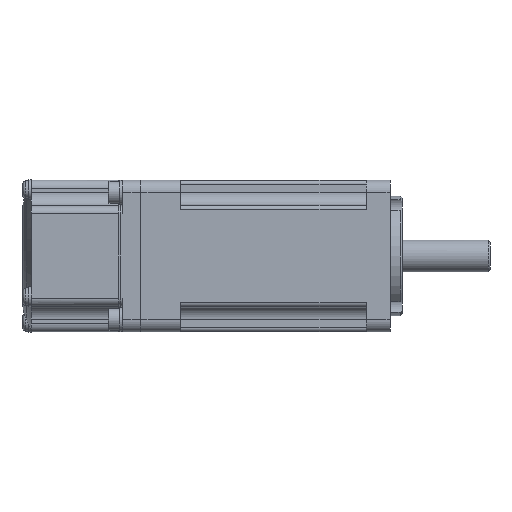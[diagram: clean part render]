
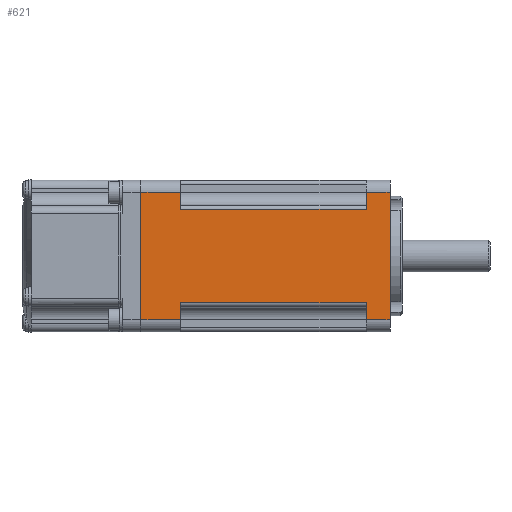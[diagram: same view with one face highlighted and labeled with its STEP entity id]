
A CAD part, front view. The second image highlights one B-rep face of the part: STEP entity #621.
In plain terms, the highlighted planar face has unit normal (0, -1, 0).
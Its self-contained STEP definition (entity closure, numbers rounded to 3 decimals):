
#621 = ADVANCED_FACE( '', ( #1719 ), #1720, .T. );
#1719 = FACE_OUTER_BOUND( '', #3411, .T. );
#1720 = PLANE( '', #3412 );
#3411 = EDGE_LOOP( '', ( #6607, #6608, #6609, #6610, #6611, #6612, #6613, #6614, #6615, #6616, #6617, #6618 ) );
#3412 = AXIS2_PLACEMENT_3D( '', #6619, #6620, #6621 );
#6607 = ORIENTED_EDGE( '', *, *, #10627, .F. );
#6608 = ORIENTED_EDGE( '', *, *, #10903, .T. );
#6609 = ORIENTED_EDGE( '', *, *, #10900, .T. );
#6610 = ORIENTED_EDGE( '', *, *, #10874, .T. );
#6611 = ORIENTED_EDGE( '', *, *, #10902, .F. );
#6612 = ORIENTED_EDGE( '', *, *, #10827, .T. );
#6613 = ORIENTED_EDGE( '', *, *, #10570, .F. );
#6614 = ORIENTED_EDGE( '', *, *, #10904, .F. );
#6615 = ORIENTED_EDGE( '', *, *, #10905, .F. );
#6616 = ORIENTED_EDGE( '', *, *, #10879, .F. );
#6617 = ORIENTED_EDGE( '', *, *, #10896, .T. );
#6618 = ORIENTED_EDGE( '', *, *, #10831, .F. );
#6619 = CARTESIAN_POINT( '', ( -92., -19., 16. ) );
#6620 = DIRECTION( '', ( 0., -1., 0. ) );
#6621 = DIRECTION( '', ( 0., 0., -1. ) );
#10570 = EDGE_CURVE( '', #12557, #12559, #12560, .T. );
#10627 = EDGE_CURVE( '', #12654, #12655, #12656, .T. );
#10827 = EDGE_CURVE( '', #12978, #12559, #12980, .T. );
#10831 = EDGE_CURVE( '', #12655, #12986, #12987, .T. );
#10874 = EDGE_CURVE( '', #13057, #13055, #13058, .T. );
#10879 = EDGE_CURVE( '', #13065, #13061, #13067, .T. );
#10896 = EDGE_CURVE( '', #13065, #12986, #13093, .T. );
#10900 = EDGE_CURVE( '', #13096, #13057, #13098, .T. );
#10902 = EDGE_CURVE( '', #12978, #13055, #13101, .T. );
#10903 = EDGE_CURVE( '', #12654, #13096, #13102, .T. );
#10904 = EDGE_CURVE( '', #13103, #12557, #13104, .T. );
#10905 = EDGE_CURVE( '', #13061, #13103, #13105, .T. );
#12557 = VERTEX_POINT( '', #15810 );
#12559 = VERTEX_POINT( '', #15812 );
#12560 = LINE( '', #15813, #15814 );
#12654 = VERTEX_POINT( '', #15945 );
#12655 = VERTEX_POINT( '', #15946 );
#12656 = LINE( '', #15947, #15948 );
#12978 = VERTEX_POINT( '', #16391 );
#12980 = LINE( '', #16393, #16394 );
#12986 = VERTEX_POINT( '', #16401 );
#12987 = LINE( '', #16402, #16403 );
#13055 = VERTEX_POINT( '', #16497 );
#13057 = VERTEX_POINT( '', #16499 );
#13058 = LINE( '', #16500, #16501 );
#13061 = VERTEX_POINT( '', #16504 );
#13065 = VERTEX_POINT( '', #16509 );
#13067 = LINE( '', #16511, #16512 );
#13093 = LINE( '', #16547, #16548 );
#13096 = VERTEX_POINT( '', #16553 );
#13098 = LINE( '', #16555, #16556 );
#13101 = LINE( '', #16559, #16560 );
#13102 = LINE( '', #16561, #16562 );
#13103 = VERTEX_POINT( '', #16563 );
#13104 = LINE( '', #16564, #16565 );
#13105 = LINE( '', #16566, #16567 );
#15810 = CARTESIAN_POINT( '', ( 0., -19., 16. ) );
#15812 = CARTESIAN_POINT( '', ( 0., -19., -16. ) );
#15813 = CARTESIAN_POINT( '', ( 0., -19., 16. ) );
#15814 = VECTOR( '', #19796, 1000. );
#15945 = CARTESIAN_POINT( '', ( -62.4, -19., -16. ) );
#15946 = CARTESIAN_POINT( '', ( -62.4, -19., 16. ) );
#15947 = CARTESIAN_POINT( '', ( -62.4, -19., 16. ) );
#15948 = VECTOR( '', #19894, 1000. );
#16391 = CARTESIAN_POINT( '', ( -6., -19., -16. ) );
#16393 = CARTESIAN_POINT( '', ( -92., -19., -16. ) );
#16394 = VECTOR( '', #20238, 1000. );
#16401 = CARTESIAN_POINT( '', ( -52.5, -19., 16. ) );
#16402 = CARTESIAN_POINT( '', ( -92., -19., 16. ) );
#16403 = VECTOR( '', #20246, 1000. );
#16497 = CARTESIAN_POINT( '', ( -6., -19., -11.71 ) );
#16499 = CARTESIAN_POINT( '', ( -52.5, -19., -11.71 ) );
#16500 = CARTESIAN_POINT( '', ( -52.5, -19., -11.71 ) );
#16501 = VECTOR( '', #20321, 1000. );
#16504 = CARTESIAN_POINT( '', ( -6., -19., 11.71 ) );
#16509 = CARTESIAN_POINT( '', ( -52.5, -19., 11.71 ) );
#16511 = CARTESIAN_POINT( '', ( -52.5, -19., 11.71 ) );
#16512 = VECTOR( '', #20332, 1000. );
#16547 = CARTESIAN_POINT( '', ( -52.5, -19., 16. ) );
#16548 = VECTOR( '', #20363, 1000. );
#16553 = CARTESIAN_POINT( '', ( -52.5, -19., -16. ) );
#16555 = CARTESIAN_POINT( '', ( -52.5, -19., 16. ) );
#16556 = VECTOR( '', #20369, 1000. );
#16559 = CARTESIAN_POINT( '', ( -6., -19., 16. ) );
#16560 = VECTOR( '', #20373, 1000. );
#16561 = CARTESIAN_POINT( '', ( -92., -19., -16. ) );
#16562 = VECTOR( '', #20374, 1000. );
#16563 = CARTESIAN_POINT( '', ( -6., -19., 16. ) );
#16564 = CARTESIAN_POINT( '', ( -92., -19., 16. ) );
#16565 = VECTOR( '', #20375, 1000. );
#16566 = CARTESIAN_POINT( '', ( -6., -19., 16. ) );
#16567 = VECTOR( '', #20376, 1000. );
#19796 = DIRECTION( '', ( 0., 0., -1. ) );
#19894 = DIRECTION( '', ( 0., 0., 1. ) );
#20238 = DIRECTION( '', ( 1., 0., 0. ) );
#20246 = DIRECTION( '', ( 1., 0., 0. ) );
#20321 = DIRECTION( '', ( 1., 0., 0. ) );
#20332 = DIRECTION( '', ( 1., 0., 0. ) );
#20363 = DIRECTION( '', ( 0., 0., 1. ) );
#20369 = DIRECTION( '', ( 0., 0., 1. ) );
#20373 = DIRECTION( '', ( 0., 0., 1. ) );
#20374 = DIRECTION( '', ( 1., 0., 0. ) );
#20375 = DIRECTION( '', ( 1., 0., 0. ) );
#20376 = DIRECTION( '', ( 0., 0., 1. ) );
